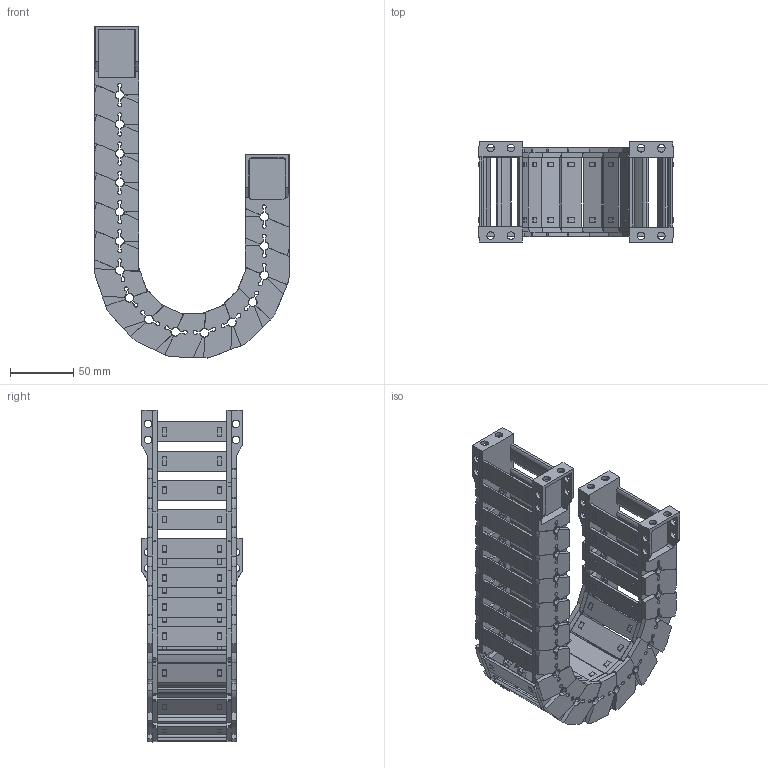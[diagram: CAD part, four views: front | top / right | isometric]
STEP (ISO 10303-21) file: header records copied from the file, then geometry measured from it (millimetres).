
FILE_DESCRIPTION(/* description */ (''),/* implementation_level */ '2;1');
FILE_NAME(/* name */ 'JY28-55-R55.stp',/* time_stamp */ '2026-06-03T14:20:37+08:00',/* author */ (''),/* organization */ (''),/* preprocessor_version */ 'ST-DEVELOPER v19.4',/* originating_system */ 'SIEMENS PLM Software NX2306.5001',/* authorisation */ '');
FILE_SCHEMA (('AP203_CONFIGURATION_CONTROLLED_3D_DESIGN_OF_MECHANICAL_PARTS_AND_ASSEMBLIES_MIM_LF { 1 0 10303 403 2 1 2}'));
Products named in the file (1): _model1_objects
Bounding box: 153.11 x 79 x 261.45 mm (x, y, z)
Volume: 292433.6 mm3; surface area: 196839.1 mm2
Topology: 18 solids, 18 shells, 3920 faces, 10964 edges, 7130 vertices
Faces by surface type: plane 2177, cone 940, cylinder 741, bspline 60, torus 2
Full cylindrical faces by diameter (mm): 6 x24
Entity records: 135289 total; most frequent: CARTESIAN_POINT 33855, ORIENTED_EDGE 21836, DIRECTION 20876, EDGE_CURVE 10918, AXIS2_PLACEMENT_3D 7349, VERTEX_POINT 7108, LINE 6178, VECTOR 6178
